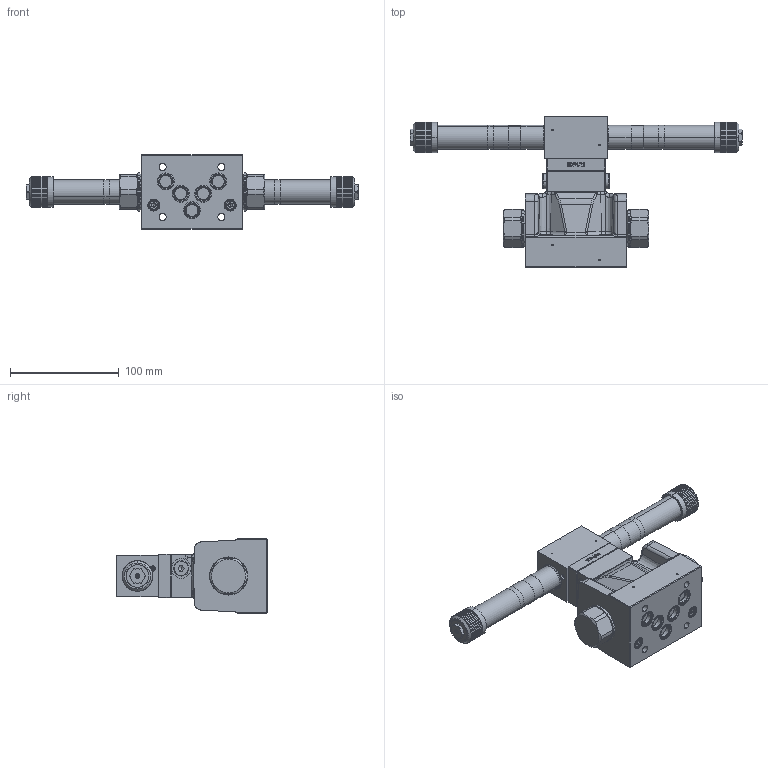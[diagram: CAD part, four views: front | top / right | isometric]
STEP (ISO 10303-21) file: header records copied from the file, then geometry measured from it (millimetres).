
FILE_DESCRIPTION (( 'STEP AP214' ), '1' );
FILE_NAME ('WVZFA10-4_3-te_pi_pe.STEP', '2019-06-26T06:20:26', ( '' ), ( '' ), 'SwSTEP 2.0', 'SolidWorks 2018', '' );
FILE_SCHEMA (( 'AUTOMOTIVE_DESIGN' ));
Length unit declared in the file: millimetre
Products named in the file (1): WVZFA10-4_3-te_pi_pe
Bounding box: 304.7 x 138.1 x 68 mm (x, y, z)
Volume: 639118.8 mm3; surface area: 96372.4 mm2
Topology: 15 solids, 17 shells, 1959 faces, 5030 edges, 3198 vertices
Faces by surface type: plane 951, cylinder 515, bspline 234, cone 180, torus 79
Entity records: 89279 total; most frequent: CARTESIAN_POINT 21866, ORIENTED_EDGE 10016, DIRECTION 8935, EDGE_CURVE 5008, VERTEX_POINT 3198, AXIS2_PLACEMENT_3D 3146, LINE 2643, VECTOR 2643
